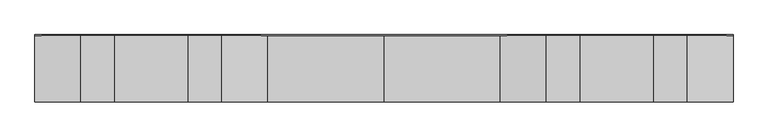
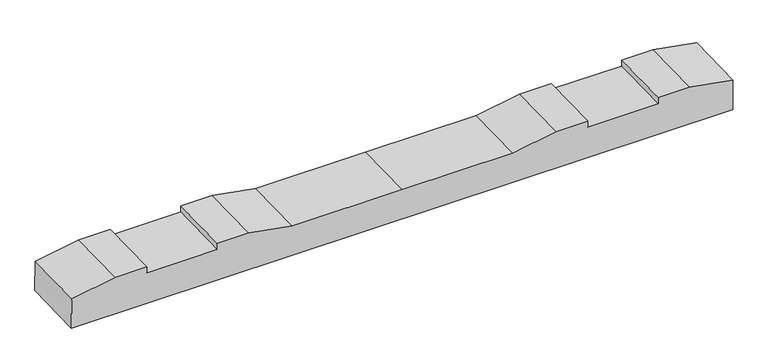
"""IFC4 building model written with IfcOpenShell, lengths in millimetres: proxy geometry, 轨枕-立面角度 : 轨枕-立面角度."""

from ifc_helpers import new_model, si_unit, frame, origin, place, context, project, spatial, polyline, outline, extrude, source, transform, mapped, element, save


def generic_models_c52056a7(model_context):
    return source(origin(), model_context, "Body", "SweptSolid", [
        extrude(outline(polyline([(0.0, 0.0), (2099.7669328, 0.0), (2099.7669328, -100.0206889), (1961.8834664, -124.5), (1861.8834664, -124.5), (1861.8834664, -104.5), (1637.8834664, -104.5), (1637.8834664, -124.5), (1537.8834664, -124.5), (1399.8834664, -99.9999999), (1049.8834664, -99.9999999), (699.8834664, -99.9999999), (561.8834664, -124.5), (461.8834664, -124.5), (461.8834664, -104.5), (237.8834664, -104.5), (237.8834664, -124.5), (137.8834664, -124.5), (0.0, -100.0206889), (0.0, 0.0)])), frame((-1049.8834664, -97.4107274, -106.9177262), z_axis=(0.0, 0.999700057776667, 0.024490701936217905), x_axis=(1.0, 0.0, 0.0)), (0.0, 0.0, 1.0), 200.0),
    ])


if __name__ == "__main__":
    model = new_model("IFC4")
    model_context = context("Model", 3, world=origin())
    ifc_project = project(units=[si_unit("LENGTHUNIT", "METRE", prefix="MILLI")], contexts=[model_context])
    site = spatial("IfcSite", under=ifc_project)
    building = spatial("IfcBuilding", under=site)
    placement = place(None, origin())
    generic_models_shape = generic_models_c52056a7(model_context)
    element("IfcBuildingElementProxy", 1, Name="轨枕-立面角度 : 轨枕-立面角度", ObjectType="轨枕-立面角度 : 轨枕-立面角度", at=placement, inside=building, context=model_context, shape_type="MappedRepresentation", body=[
        mapped(generic_models_shape, transform((0.0, 0.0, 0.0), x_axis=(1.0, 0.0, 0.0), y_axis=(0.0, 1.0, 0.0), z_axis=(0.0, 0.0, 1.0))),
    ])
    save(model, "model.ifc")
